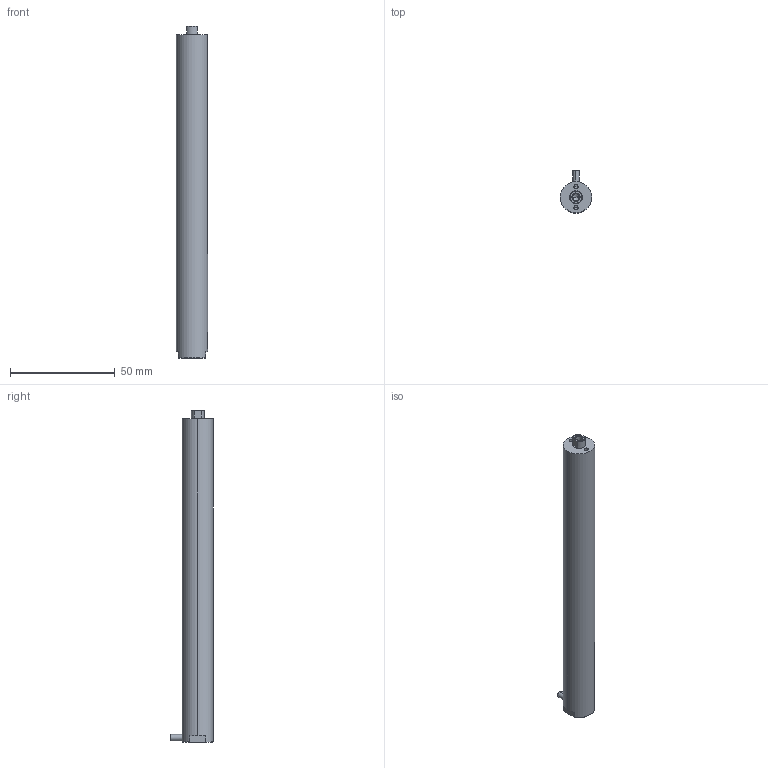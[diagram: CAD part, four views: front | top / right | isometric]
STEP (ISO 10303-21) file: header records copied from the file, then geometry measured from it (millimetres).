
FILE_DESCRIPTION (( 'STEP AP203' ), '1' );
FILE_NAME ('160VS15囀蹟恇.STEP', '2024-11-30T07:42:59', ( 'daohangxitong.com' ), ( 'daohangxitong.com' ), 'SwSTEP 2.0', 'SolidWorks 2016', '' );
FILE_SCHEMA (( 'CONFIG_CONTROL_DESIGN' ));
Products named in the file (1): 160VS15囀蹟恇
Bounding box: 15 x 20.5 x 158.8 mm (x, y, z)
Volume: 27336.2 mm3; surface area: 7883.5 mm2
Topology: 1 solids, 1 shells, 948 faces, 2724 edges, 1808 vertices
Faces by surface type: bspline 831, cylinder 51, plane 50, cone 16
Entity records: 51352 total; most frequent: CARTESIAN_POINT 33933, ORIENTED_EDGE 5432, EDGE_CURVE 2716, B_SPLINE_CURVE_WITH_KNOTS 2547, VERTEX_POINT 1808, EDGE_LOOP 986, FACE_OUTER_BOUND 948, ADVANCED_FACE 948
